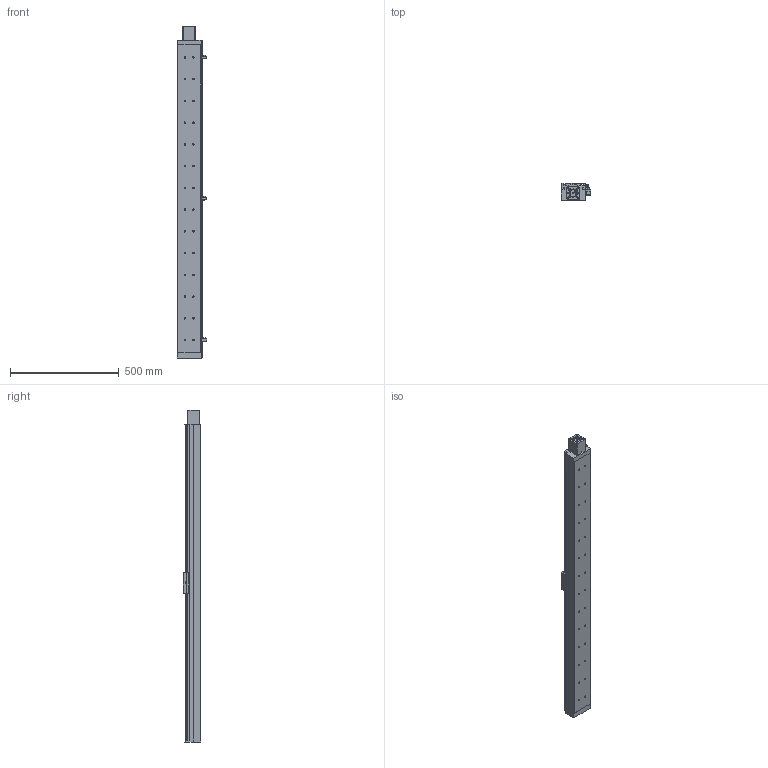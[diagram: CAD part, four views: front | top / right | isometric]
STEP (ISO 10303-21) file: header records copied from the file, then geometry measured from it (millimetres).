
FILE_DESCRIPTION((''),'2;1');
FILE_NAME('E:\libraries\UIA actuator library 2009\standard actuator\UIA110R12(15)DC\UIA110R12(15)DC-ball screw dia.20\UIA110R12(15)DC-_ _ _-R20_ _-M23 step file 20Apr16\UIA110R12(15)DC-1300-R20_ _-M23-P13-C10-S.stp','2016-04-22T11:57:22',('h029'),(''),'Autodesk Inventor 11','Autodesk Inventor 11','');
FILE_SCHEMA(('AUTOMOTIVE_DESIGN { 1 0 10303 214 1 1 1 1 }'));
Length unit declared in the file: millimetre
Products named in the file (10): UIA110R12(15)DC-1300, ball screw dia.20; body, UIA110R12(15)DC-1300,ball screw dia.20; Carriage, UIA110R12(15)DC; Sen Switch, UIA110R12(15)DC; sensor rail, UIA110R12(15)DC; SOH-32C; SOH-32C-3; SOH-32C-1; SOH-32C-2; M23 motor mount
Assembly tree (9 placements, depth 3):
  UIA110R12(15)DC-1300, ball screw dia.20
    body, UIA110R12(15)DC-1300,ball screw dia.20
    Carriage, UIA110R12(15)DC
    Sen Switch, UIA110R12(15)DC
    sensor rail, UIA110R12(15)DC
    SOH-32C
      SOH-32C-3
      SOH-32C-1
      SOH-32C-2
    M23 motor mount
Bounding box: 136.5 x 81 x 1527 mm (x, y, z)
Volume: 10933798 mm3; surface area: 809939.7 mm2
Topology: 8 solids, 8 shells, 693 faces, 1800 edges, 1181 vertices
Faces by surface type: plane 435, cylinder 156, bspline 83, cone 19
Full cylindrical faces by diameter (mm): 2.459 x4, 3.242 x4, 4 x6, 4.5 x4, 5.5 x3, 6.35 x1, 6.5 x28, 7.5 x4, 9.5 x6, 10 x2, 10.5 x28, 12 x1, 25 x1, 32 x3, 37 x1, 38.1 x1, 42 x1, 42.01 x1, 43.5 x1
Entity records: 21540 total; most frequent: CARTESIAN_POINT 5331, DIRECTION 3287, ORIENTED_EDGE 3066, EDGE_CURVE 1533, AXIS2_PLACEMENT_3D 1142, VERTEX_POINT 1104, VECTOR 1003, LINE 1003
